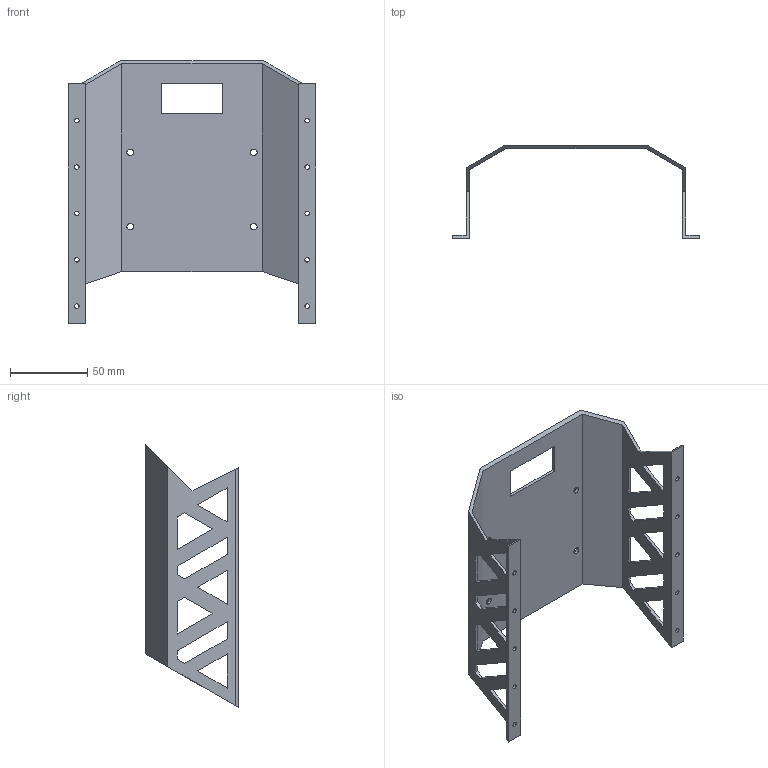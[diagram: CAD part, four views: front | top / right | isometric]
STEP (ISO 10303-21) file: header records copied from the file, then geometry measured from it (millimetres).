
FILE_DESCRIPTION (( 'STEP AP214' ), '1' );
FILE_NAME ('Íâ¿Çºó.STEP', '2023-02-09T03:34:09', ( '' ), ( '' ), 'SwSTEP 2.0', 'SolidWorks 2022', '' );
FILE_SCHEMA (( 'AUTOMOTIVE_DESIGN' ));
Length unit declared in the file: millimetre
Products named in the file (1): 外壳后
Bounding box: 160 x 60 x 170 mm (x, y, z)
Volume: 59751 mm3; surface area: 64292.4 mm2
Topology: 1 solids, 1 shells, 106 faces, 312 edges, 208 vertices
Faces by surface type: plane 78, cylinder 28
Entity records: 3662 total; most frequent: CARTESIAN_POINT 627, ORIENTED_EDGE 624, DIRECTION 582, EDGE_CURVE 312, LINE 256, VECTOR 256, VERTEX_POINT 208, EDGE_LOOP 164
